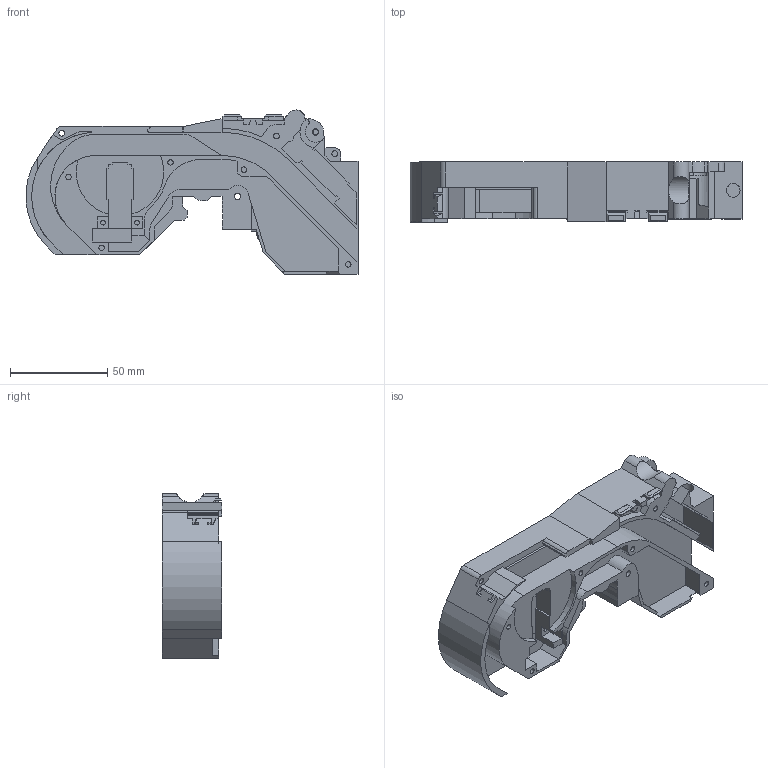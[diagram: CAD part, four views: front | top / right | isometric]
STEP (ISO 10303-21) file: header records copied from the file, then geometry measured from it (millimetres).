
FILE_DESCRIPTION(('FreeCAD Model'),'2;1');
FILE_NAME('Open CASCADE Shape Model','2026-07-02T15:06:51',(''),(''), 'Open CASCADE STEP processor 7.8','FreeCAD','Unknown');
FILE_SCHEMA(('AUTOMOTIVE_DESIGN { 1 0 10303 214 1 1 1 1 }'));
Length unit declared in the file: millimetre
Products named in the file (1): frame
Bounding box: 170.89 x 30.85 x 84.5 mm (x, y, z)
Volume: 196845.2 mm3; surface area: 52594.3 mm2
Topology: 1 solids, 1 shells, 329 faces, 908 edges, 593 vertices
Faces by surface type: plane 262, cylinder 64, cone 2, bspline 1
Full cylindrical faces by diameter (mm): 2.5 x2, 2.75 x1, 2.8 x5, 2.9 x3, 3.2 x1, 4 x1, 7 x2
Entity records: 10655 total; most frequent: CARTESIAN_POINT 2118, ORIENTED_EDGE 1816, DIRECTION 1708, EDGE_CURVE 908, LINE 750, VECTOR 750, VERTEX_POINT 593, AXIS2_PLACEMENT_3D 479
